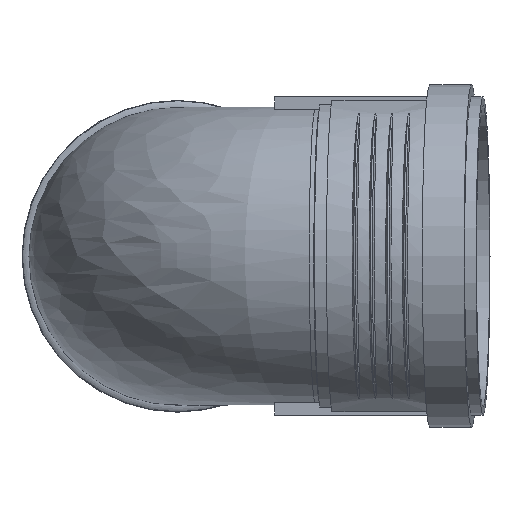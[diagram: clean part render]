
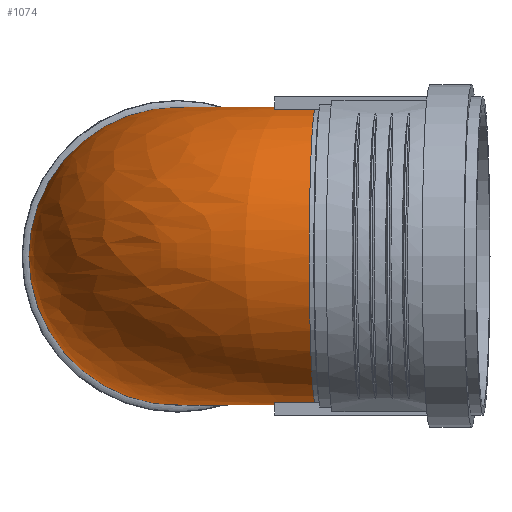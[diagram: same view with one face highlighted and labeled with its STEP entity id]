
A CAD part, top view. The second image highlights one B-rep face of the part: STEP entity #1074.
In plain terms, the highlighted free-form (B-spline) face has degree [2, 2] with [9, 9] control points.
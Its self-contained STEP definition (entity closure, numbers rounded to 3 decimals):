
#142=(
BOUNDED_SURFACE()
B_SPLINE_SURFACE(2,2,((#1588,#1589,#1590,#1591,#1592,#1593,#1594,#1595,
#1596),(#1597,#1598,#1599,#1600,#1601,#1602,#1603,#1604,#1605),(#1606,#1607,
#1608,#1609,#1610,#1611,#1612,#1613,#1614),(#1615,#1616,#1617,#1618,#1619,
#1620,#1621,#1622,#1623),(#1624,#1625,#1626,#1627,#1628,#1629,#1630,#1631,
#1632),(#1633,#1634,#1635,#1636,#1637,#1638,#1639,#1640,#1641),(#1642,#1643,
#1644,#1645,#1646,#1647,#1648,#1649,#1650),(#1651,#1652,#1653,#1654,#1655,
#1656,#1657,#1658,#1659),(#1660,#1661,#1662,#1663,#1664,#1665,#1666,#1667,
#1668)),.UNSPECIFIED.,.T.,.T.,.F.)
B_SPLINE_SURFACE_WITH_KNOTS((3,2,2,2,3),(3,2,2,2,3),(-3.142,
-1.571,0.,1.571,3.142),(-3.142,
-1.571,0.,1.571,3.142),.UNSPECIFIED.)
GEOMETRIC_REPRESENTATION_ITEM()
RATIONAL_B_SPLINE_SURFACE(((1.,0.707,1.,0.707,1.,
0.707,1.,0.707,1.),(0.707,0.5,0.707,
0.5,0.707,0.5,0.707,0.5,0.707),(1.,
0.707,1.,0.707,1.,0.707,1.,0.707,
1.),(0.707,0.5,0.707,0.5,0.707,0.5,
0.707,0.5,0.707),(1.,0.707,1.,0.707,
1.,0.707,1.,0.707,1.),(0.707,0.5,0.707,
0.5,0.707,0.5,0.707,0.5,0.707),(1.,
0.707,1.,0.707,1.,0.707,1.,0.707,
1.),(0.707,0.5,0.707,0.5,0.707,0.5,
0.707,0.5,0.707),(1.,0.707,1.,0.707,
1.,0.707,1.,0.707,1.)))
REPRESENTATION_ITEM($)
SURFACE()
);
#260=FACE_OUTER_BOUND($,#331,.T.);
#331=EDGE_LOOP($,(#734,#735));
#425=CIRCLE($,#1158,80.125);
#426=CIRCLE($,#1159,80.125);
#480=VERTEX_POINT($,#1586);
#586=EDGE_CURVE($,#480,#480,#425,.T.);
#587=EDGE_CURVE($,#480,#480,#426,.T.);
#734=ORIENTED_EDGE($,*,*,#586,.T.);
#735=ORIENTED_EDGE($,*,*,#587,.F.);
#1074=ADVANCED_FACE($,(#260),#142,.F.);
#1158=AXIS2_PLACEMENT_3D($,#1587,#1307,#1308);
#1159=AXIS2_PLACEMENT_3D($,#1669,#1309,#1310);
#1307=DIRECTION('center_axis',(-0.999,0.,-0.044));
#1308=DIRECTION('ref_axis',(-0.044,0.,0.999));
#1309=DIRECTION('center_axis',(0.,0.,-1.));
#1310=DIRECTION('ref_axis',(-1.,0.,0.));
#1586=CARTESIAN_POINT('',(80.125,0.,88.74));
#1587=CARTESIAN_POINT('Origin',(76.63,0.,168.789));
#1588=CARTESIAN_POINT('Ctrl Pts',(80.125,0.,88.74));
#1589=CARTESIAN_POINT('Ctrl Pts',(80.125,0.,88.74));
#1590=CARTESIAN_POINT('Ctrl Pts',(80.125,0.,88.74));
#1591=CARTESIAN_POINT('Ctrl Pts',(80.125,0.,88.74));
#1592=CARTESIAN_POINT('Ctrl Pts',(80.125,0.,88.74));
#1593=CARTESIAN_POINT('Ctrl Pts',(80.125,0.,88.74));
#1594=CARTESIAN_POINT('Ctrl Pts',(80.125,0.,88.74));
#1595=CARTESIAN_POINT('Ctrl Pts',(80.125,0.,88.74));
#1596=CARTESIAN_POINT('Ctrl Pts',(80.125,0.,88.74));
#1597=CARTESIAN_POINT('Ctrl Pts',(80.125,-80.125,88.74));
#1598=CARTESIAN_POINT('Ctrl Pts',(80.125,-80.125,88.74));
#1599=CARTESIAN_POINT('Ctrl Pts',(80.125,-80.125,88.74));
#1600=CARTESIAN_POINT('Ctrl Pts',(80.125,-80.125,88.74));
#1601=CARTESIAN_POINT('Ctrl Pts',(80.125,-80.125,88.74));
#1602=CARTESIAN_POINT('Ctrl Pts',(80.125,-80.125,88.74));
#1603=CARTESIAN_POINT('Ctrl Pts',(80.125,-80.125,88.74));
#1604=CARTESIAN_POINT('Ctrl Pts',(80.125,-80.125,88.74));
#1605=CARTESIAN_POINT('Ctrl Pts',(80.125,-80.125,88.74));
#1606=CARTESIAN_POINT('Ctrl Pts',(80.125,-80.125,8.615));
#1607=CARTESIAN_POINT('Ctrl Pts',(0.,-80.125,8.615));
#1608=CARTESIAN_POINT('Ctrl Pts',(0.,-80.125,88.74));
#1609=CARTESIAN_POINT('Ctrl Pts',(0.,-80.125,168.865));
#1610=CARTESIAN_POINT('Ctrl Pts',(80.125,-80.125,168.865));
#1611=CARTESIAN_POINT('Ctrl Pts',(160.25,-80.125,168.865));
#1612=CARTESIAN_POINT('Ctrl Pts',(160.25,-80.125,88.74));
#1613=CARTESIAN_POINT('Ctrl Pts',(160.25,-80.125,8.615));
#1614=CARTESIAN_POINT('Ctrl Pts',(80.125,-80.125,8.615));
#1615=CARTESIAN_POINT('Ctrl Pts',(80.125,-80.125,-71.51));
#1616=CARTESIAN_POINT('Ctrl Pts',(-80.125,-80.125,-71.51));
#1617=CARTESIAN_POINT('Ctrl Pts',(-80.125,-80.125,88.74));
#1618=CARTESIAN_POINT('Ctrl Pts',(-80.125,-80.125,248.99));
#1619=CARTESIAN_POINT('Ctrl Pts',(80.125,-80.125,248.99));
#1620=CARTESIAN_POINT('Ctrl Pts',(240.375,-80.125,248.99));
#1621=CARTESIAN_POINT('Ctrl Pts',(240.375,-80.125,88.74));
#1622=CARTESIAN_POINT('Ctrl Pts',(240.375,-80.125,-71.51));
#1623=CARTESIAN_POINT('Ctrl Pts',(80.125,-80.125,-71.51));
#1624=CARTESIAN_POINT('Ctrl Pts',(80.125,0.,-71.51));
#1625=CARTESIAN_POINT('Ctrl Pts',(-80.125,0.,-71.51));
#1626=CARTESIAN_POINT('Ctrl Pts',(-80.125,0.,88.74));
#1627=CARTESIAN_POINT('Ctrl Pts',(-80.125,0.,248.99));
#1628=CARTESIAN_POINT('Ctrl Pts',(80.125,0.,248.99));
#1629=CARTESIAN_POINT('Ctrl Pts',(240.375,0.,248.99));
#1630=CARTESIAN_POINT('Ctrl Pts',(240.375,0.,88.74));
#1631=CARTESIAN_POINT('Ctrl Pts',(240.375,0.,-71.51));
#1632=CARTESIAN_POINT('Ctrl Pts',(80.125,0.,-71.51));
#1633=CARTESIAN_POINT('Ctrl Pts',(80.125,80.125,-71.51));
#1634=CARTESIAN_POINT('Ctrl Pts',(-80.125,80.125,-71.51));
#1635=CARTESIAN_POINT('Ctrl Pts',(-80.125,80.125,88.74));
#1636=CARTESIAN_POINT('Ctrl Pts',(-80.125,80.125,248.99));
#1637=CARTESIAN_POINT('Ctrl Pts',(80.125,80.125,248.99));
#1638=CARTESIAN_POINT('Ctrl Pts',(240.375,80.125,248.99));
#1639=CARTESIAN_POINT('Ctrl Pts',(240.375,80.125,88.74));
#1640=CARTESIAN_POINT('Ctrl Pts',(240.375,80.125,-71.51));
#1641=CARTESIAN_POINT('Ctrl Pts',(80.125,80.125,-71.51));
#1642=CARTESIAN_POINT('Ctrl Pts',(80.125,80.125,8.615));
#1643=CARTESIAN_POINT('Ctrl Pts',(0.,80.125,8.615));
#1644=CARTESIAN_POINT('Ctrl Pts',(0.,80.125,88.74));
#1645=CARTESIAN_POINT('Ctrl Pts',(0.,80.125,168.865));
#1646=CARTESIAN_POINT('Ctrl Pts',(80.125,80.125,168.865));
#1647=CARTESIAN_POINT('Ctrl Pts',(160.25,80.125,168.865));
#1648=CARTESIAN_POINT('Ctrl Pts',(160.25,80.125,88.74));
#1649=CARTESIAN_POINT('Ctrl Pts',(160.25,80.125,8.615));
#1650=CARTESIAN_POINT('Ctrl Pts',(80.125,80.125,8.615));
#1651=CARTESIAN_POINT('Ctrl Pts',(80.125,80.125,88.74));
#1652=CARTESIAN_POINT('Ctrl Pts',(80.125,80.125,88.74));
#1653=CARTESIAN_POINT('Ctrl Pts',(80.125,80.125,88.74));
#1654=CARTESIAN_POINT('Ctrl Pts',(80.125,80.125,88.74));
#1655=CARTESIAN_POINT('Ctrl Pts',(80.125,80.125,88.74));
#1656=CARTESIAN_POINT('Ctrl Pts',(80.125,80.125,88.74));
#1657=CARTESIAN_POINT('Ctrl Pts',(80.125,80.125,88.74));
#1658=CARTESIAN_POINT('Ctrl Pts',(80.125,80.125,88.74));
#1659=CARTESIAN_POINT('Ctrl Pts',(80.125,80.125,88.74));
#1660=CARTESIAN_POINT('Ctrl Pts',(80.125,0.,88.74));
#1661=CARTESIAN_POINT('Ctrl Pts',(80.125,0.,88.74));
#1662=CARTESIAN_POINT('Ctrl Pts',(80.125,0.,88.74));
#1663=CARTESIAN_POINT('Ctrl Pts',(80.125,0.,88.74));
#1664=CARTESIAN_POINT('Ctrl Pts',(80.125,0.,88.74));
#1665=CARTESIAN_POINT('Ctrl Pts',(80.125,0.,88.74));
#1666=CARTESIAN_POINT('Ctrl Pts',(80.125,0.,88.74));
#1667=CARTESIAN_POINT('Ctrl Pts',(80.125,0.,88.74));
#1668=CARTESIAN_POINT('Ctrl Pts',(80.125,0.,88.74));
#1669=CARTESIAN_POINT('Origin',(0.,0.,88.74));
